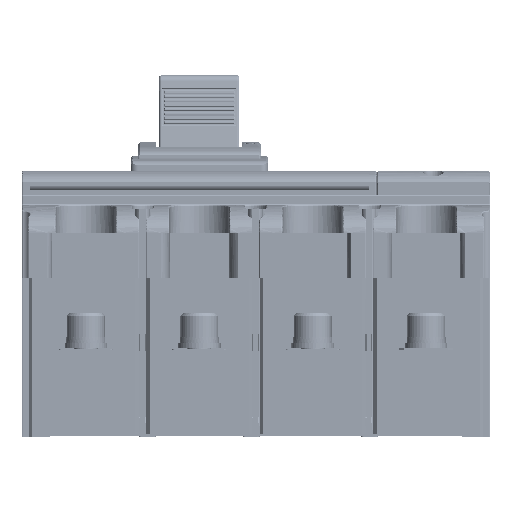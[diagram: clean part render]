
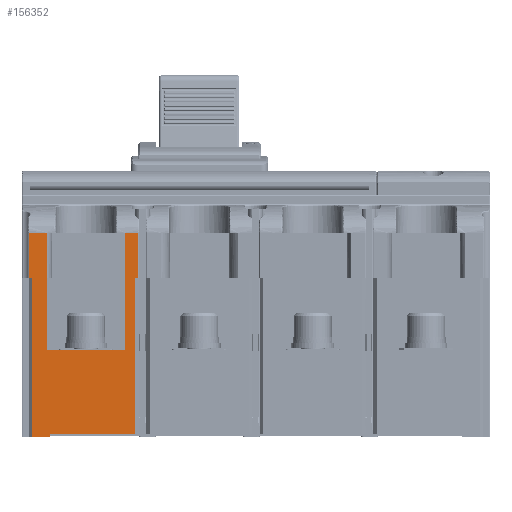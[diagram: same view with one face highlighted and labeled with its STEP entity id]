
A CAD part, front view. The second image highlights one B-rep face of the part: STEP entity #156352.
In plain terms, the highlighted planar face has unit normal (0, -1, 0).
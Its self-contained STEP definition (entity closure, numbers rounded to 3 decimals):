
#9177=CARTESIAN_POINT('',(-49.9,-128.5,86.25));
#10050=DIRECTION('',(1.,0.,0.));
#10051=VECTOR('',#10050,1.1);
#10052=CARTESIAN_POINT('',(-51.,-128.5,67.));
#10053=LINE('',#10052,#10051);
#10355=DIRECTION('',(0.,0.,-1.));
#10356=VECTOR('',#10355,30.2);
#10357=CARTESIAN_POINT('',(-55.4,-128.5,67.));
#10358=LINE('',#10357,#10356);
#10359=DIRECTION('',(0.,0.,1.));
#10360=VECTOR('',#10359,19.25);
#10361=CARTESIAN_POINT('',(-55.6,-128.5,67.));
#10362=LINE('',#10361,#10360);
#10363=DIRECTION('',(-1.,0.,0.));
#10364=VECTOR('',#10363,5.7);
#10365=CARTESIAN_POINT('',(-49.9,-128.5,86.25));
#10366=LINE('',#10365,#10364);
#10367=DIRECTION('',(0.,0.,1.));
#10368=VECTOR('',#10367,19.25);
#10369=CARTESIAN_POINT('',(-49.9,-128.5,67.));
#10370=LINE('',#10369,#10368);
#10371=DIRECTION('',(0.,0.,1.));
#10372=VECTOR('',#10371,65.7);
#10373=CARTESIAN_POINT('',(-51.,-128.5,1.3));
#10374=LINE('',#10373,#10372);
#10375=DIRECTION('',(-1.,0.,0.));
#10376=VECTOR('',#10375,36.3);
#10377=CARTESIAN_POINT('',(-51.,-128.5,1.3));
#10378=LINE('',#10377,#10376);
#10379=DIRECTION('',(0.,0.,1.));
#10380=VECTOR('',#10379,1.3);
#10381=CARTESIAN_POINT('',(-87.3,-128.5,0.));
#10382=LINE('',#10381,#10380);
#10383=DIRECTION('',(0.,0.,-1.));
#10384=VECTOR('',#10383,67.);
#10385=CARTESIAN_POINT('',(-94.9,-128.5,67.));
#10386=LINE('',#10385,#10384);
#10387=DIRECTION('',(0.,0.,-1.));
#10388=VECTOR('',#10387,19.25);
#10389=CARTESIAN_POINT('',(-95.95,-128.5,86.25));
#10390=LINE('',#10389,#10388);
#10391=DIRECTION('',(-1.,0.,0.));
#10392=VECTOR('',#10391,7.55);
#10393=CARTESIAN_POINT('',(-88.4,-128.5,86.25));
#10394=LINE('',#10393,#10392);
#10395=DIRECTION('',(0.,0.,1.));
#10396=VECTOR('',#10395,19.25);
#10397=CARTESIAN_POINT('',(-88.4,-128.5,67.));
#10398=LINE('',#10397,#10396);
#10399=DIRECTION('',(0.,0.,-1.));
#10400=VECTOR('',#10399,30.2);
#10401=CARTESIAN_POINT('',(-88.6,-128.5,67.));
#10402=LINE('',#10401,#10400);
#10403=DIRECTION('',(1.,0.,0.));
#10404=VECTOR('',#10403,33.2);
#10405=CARTESIAN_POINT('',(-88.6,-128.5,36.8));
#10406=LINE('',#10405,#10404);
#10415=DIRECTION('',(1.,0.,0.));
#10416=VECTOR('',#10415,0.2);
#10417=CARTESIAN_POINT('',(-55.6,-128.5,67.));
#10418=LINE('',#10417,#10416);
#10471=DIRECTION('',(1.,0.,0.));
#10472=VECTOR('',#10471,0.2);
#10473=CARTESIAN_POINT('',(-88.6,-128.5,67.));
#10474=LINE('',#10473,#10472);
#10705=DIRECTION('',(1.,0.,0.));
#10706=VECTOR('',#10705,1.05);
#10707=CARTESIAN_POINT('',(-95.95,-128.5,67.));
#10708=LINE('',#10707,#10706);
#10799=DIRECTION('',(1.,0.,0.));
#10800=VECTOR('',#10799,7.6);
#10801=CARTESIAN_POINT('',(-94.9,-128.5,0.));
#10802=LINE('',#10801,#10800);
#113728=CARTESIAN_POINT('',(-87.3,-128.5,0.));
#113729=CARTESIAN_POINT('',(-87.3,-128.5,1.3));
#113730=VERTEX_POINT('',#113728);
#113731=VERTEX_POINT('',#113729);
#116169=CARTESIAN_POINT('',(-88.6,-128.5,36.8));
#116170=CARTESIAN_POINT('',(-55.4,-128.5,36.8));
#116171=VERTEX_POINT('',#116169);
#116172=VERTEX_POINT('',#116170);
#116910=CARTESIAN_POINT('',(-51.,-128.5,1.3));
#116912=VERTEX_POINT('',#116910);
#117099=CARTESIAN_POINT('',(-94.9,-128.5,0.));
#117100=VERTEX_POINT('',#117099);
#121836=CARTESIAN_POINT('',(-88.4,-128.5,67.));
#121837=CARTESIAN_POINT('',(-88.4,-128.5,86.25));
#121838=VERTEX_POINT('',#121836);
#121839=VERTEX_POINT('',#121837);
#121840=CARTESIAN_POINT('',(-55.6,-128.5,67.));
#121841=CARTESIAN_POINT('',(-55.6,-128.5,86.25));
#121842=VERTEX_POINT('',#121840);
#121843=VERTEX_POINT('',#121841);
#126948=CARTESIAN_POINT('',(-95.95,-128.5,67.));
#126950=VERTEX_POINT('',#126948);
#126954=CARTESIAN_POINT('',(-95.95,-128.5,86.25));
#126955=VERTEX_POINT('',#126954);
#127143=VERTEX_POINT('',#9177);
#127146=CARTESIAN_POINT('',(-49.9,-128.5,67.));
#127148=VERTEX_POINT('',#127146);
#129343=CARTESIAN_POINT('',(-88.6,-128.5,67.));
#129344=VERTEX_POINT('',#129343);
#129357=CARTESIAN_POINT('',(-55.4,-128.5,67.));
#129358=VERTEX_POINT('',#129357);
#129479=CARTESIAN_POINT('',(-51.,-128.5,67.));
#129480=VERTEX_POINT('',#129479);
#129643=CARTESIAN_POINT('',(-94.9,-128.5,67.));
#129644=VERTEX_POINT('',#129643);
#156313=CARTESIAN_POINT('',(-98.65,-128.5,0.));
#156314=DIRECTION('',(0.,-1.,0.));
#156315=DIRECTION('',(1.,0.,0.));
#156316=AXIS2_PLACEMENT_3D('',#156313,#156314,#156315);
#156317=PLANE('',#156316);
#156319=ORIENTED_EDGE('',*,*,#156318,.F.);
#156321=ORIENTED_EDGE('',*,*,#156320,.F.);
#156323=ORIENTED_EDGE('',*,*,#156322,.T.);
#156324=ORIENTED_EDGE('',*,*,#154958,.F.);
#156326=ORIENTED_EDGE('',*,*,#156325,.F.);
#156327=ORIENTED_EDGE('',*,*,#155734,.F.);
#156328=ORIENTED_EDGE('',*,*,#156308,.F.);
#156329=ORIENTED_EDGE('',*,*,#153505,.T.);
#156331=ORIENTED_EDGE('',*,*,#156330,.F.);
#156333=ORIENTED_EDGE('',*,*,#156332,.F.);
#156335=ORIENTED_EDGE('',*,*,#156334,.F.);
#156337=ORIENTED_EDGE('',*,*,#156336,.F.);
#156339=ORIENTED_EDGE('',*,*,#156338,.F.);
#156341=ORIENTED_EDGE('',*,*,#156340,.F.);
#156343=ORIENTED_EDGE('',*,*,#156342,.F.);
#156345=ORIENTED_EDGE('',*,*,#156344,.F.);
#156347=ORIENTED_EDGE('',*,*,#156346,.T.);
#156349=ORIENTED_EDGE('',*,*,#156348,.T.);
#156350=EDGE_LOOP('',(#156319,#156321,#156323,#156324,#156326,#156327,#156328,
#156329,#156331,#156333,#156335,#156337,#156339,#156341,#156343,#156345,#156347,
#156349));
#156351=FACE_OUTER_BOUND('',#156350,.F.);
#156352=ADVANCED_FACE('',(#156351),#156317,.T.);
#153505=EDGE_CURVE('',#116912,#113731,#10378,.T.);
#154958=EDGE_CURVE('',#127143,#121843,#10366,.T.);
#155734=EDGE_CURVE('',#129480,#127148,#10053,.T.);
#156308=EDGE_CURVE('',#116912,#129480,#10374,.T.);
#156318=EDGE_CURVE('',#129358,#116172,#10358,.T.);
#156320=EDGE_CURVE('',#121842,#129358,#10418,.T.);
#156322=EDGE_CURVE('',#121842,#121843,#10362,.T.);
#156325=EDGE_CURVE('',#127148,#127143,#10370,.T.);
#156330=EDGE_CURVE('',#113730,#113731,#10382,.T.);
#156332=EDGE_CURVE('',#117100,#113730,#10802,.T.);
#156334=EDGE_CURVE('',#129644,#117100,#10386,.T.);
#156336=EDGE_CURVE('',#126950,#129644,#10708,.T.);
#156338=EDGE_CURVE('',#126955,#126950,#10390,.T.);
#156340=EDGE_CURVE('',#121839,#126955,#10394,.T.);
#156342=EDGE_CURVE('',#121838,#121839,#10398,.T.);
#156344=EDGE_CURVE('',#129344,#121838,#10474,.T.);
#156346=EDGE_CURVE('',#129344,#116171,#10402,.T.);
#156348=EDGE_CURVE('',#116171,#116172,#10406,.T.);
